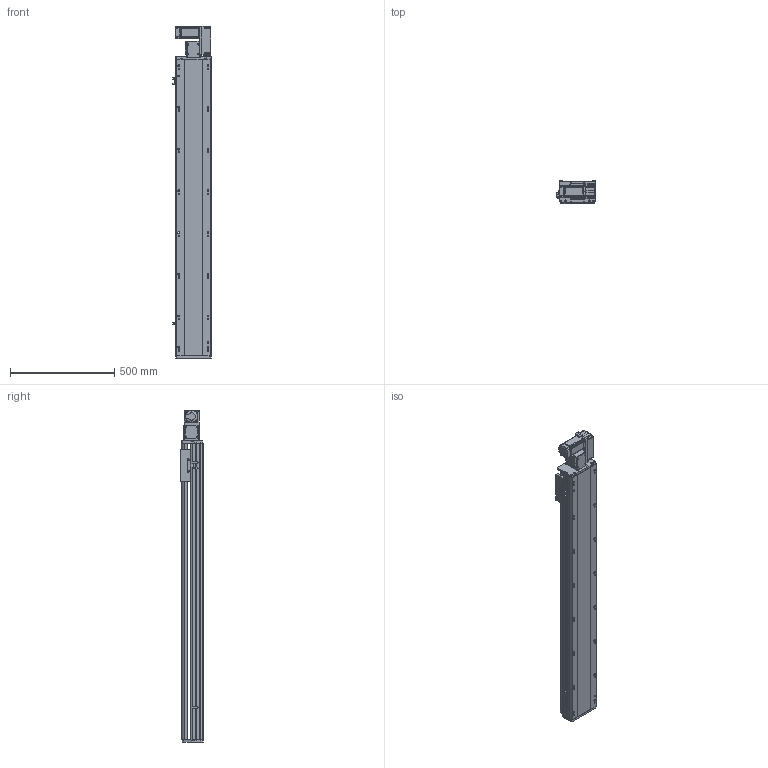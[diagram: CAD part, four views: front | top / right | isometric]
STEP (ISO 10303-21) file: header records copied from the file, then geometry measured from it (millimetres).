
FILE_DESCRIPTION (( 'STEP AP214' ), '1' );
FILE_NAME ('RTB17S-XX-1150-R-M40-C4.STEP', '2025-12-11T07:38:56', ( '' ), ( '' ), 'SwSTEP 2.0', 'SolidWorks 2018', '' );
FILE_SCHEMA (( 'AUTOMOTIVE_DESIGN' ));
Length unit declared in the file: millimetre
Products named in the file (14): RTB14-L-018P^RTB17S-R-々湍釱蚾饜-400W_RTB17S-XX-XX-R-M40-C4; RTB17S-L-014-T20--々湍釱^RTB17S-R-々湍釱蚾饜-400W_RTB17S-XX-XX-R-M40-C4; RTB14-L-008-M20--萇儂啣^RTB17S-R-々湍釱蚾饜-400W_RTB17S-XX-XX-R-M40-C4; RTB17S-L-007奻裔^RTB17S-XX-XX-R-M40-C4; 400W侜督萇儂^RTB17S-XX-XX-R-M40-C4; RTB17-R-011菁釱^RTB17S-XX-XX-R-M40-C4; RTB17S-XX-1150-R-M40-C4; RTB17S-R-々湍釱蚾饜-400W^RTB17S-XX-XX-R-M40-C4; RTB17S-L-001耜醱啣^RTB17S-XX-XX-R-M40-C4; RTH13-BL-012覜茼え俋离^RTB17S-XX-XX-R-M40-C4; RTB14-L-017P^RTB17S-R-々湍釱蚾饜-400W_RTB17S-XX-XX-R-M40-C4; RTB14-L-005P--轴承塑胶压盖^RTB17S-R-皮带座装配-400W_RTB17S-XX-XX-R-M40-C4; RTB17S-L-004佪裝蹟譫蟀諉釱^RTB17S-XX-XX-R-M40-C4; OMRON EE-SX672 传感器^RTB17S-XX-XX-R-M40-C4
Assembly tree (16 placements, depth 3):
  RTB17S-XX-1150-R-M40-C4
    RTB17-R-011菁釱^RTB17S-XX-XX-R-M40-C4
    RTB17S-L-007奻裔^RTB17S-XX-XX-R-M40-C4
    OMRON EE-SX672 传感器^RTB17S-XX-XX-R-M40-C4  x3
    RTB17S-L-001耜醱啣^RTB17S-XX-XX-R-M40-C4
    400W侜督萇儂^RTB17S-XX-XX-R-M40-C4
    RTB17S-L-004佪裝蹟譫蟀諉釱^RTB17S-XX-XX-R-M40-C4
    RTH13-BL-012覜茼え俋离^RTB17S-XX-XX-R-M40-C4
    RTB17S-R-々湍釱蚾饜-400W^RTB17S-XX-XX-R-M40-C4
      RTB17S-L-014-T20--々湍釱^RTB17S-R-々湍釱蚾饜-400W_RTB17S-XX-XX-R-M40-C4
      RTB14-L-005P--轴承塑胶压盖^RTB17S-R-皮带座装配-400W_RTB17S-XX-XX-R-M40-C4
      RTB14-L-008-M20--萇儂啣^RTB17S-R-々湍釱蚾饜-400W_RTB17S-XX-XX-R-M40-C4
      RTB14-L-017P^RTB17S-R-々湍釱蚾饜-400W_RTB17S-XX-XX-R-M40-C4  x2
      RTB14-L-018P^RTB17S-R-々湍釱蚾饜-400W_RTB17S-XX-XX-R-M40-C4
Bounding box: 183.5 x 108 x 1591 mm (x, y, z)
Volume: 13597602.2 mm3; surface area: 1631458.5 mm2
Topology: 15 solids, 15 shells, 2221 faces, 6141 edges, 4005 vertices
Faces by surface type: plane 1070, cylinder 703, bspline 301, cone 139, torus 8
Entity records: 63401 total; most frequent: CARTESIAN_POINT 17746, ORIENTED_EDGE 9126, DIRECTION 8486, EDGE_CURVE 4563, VERTEX_POINT 2993, AXIS2_PLACEMENT_3D 2923, LINE 2640, VECTOR 2640
